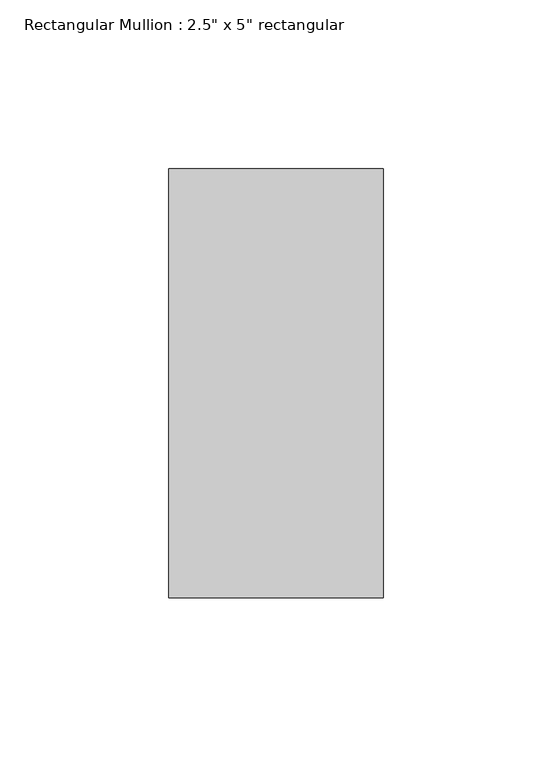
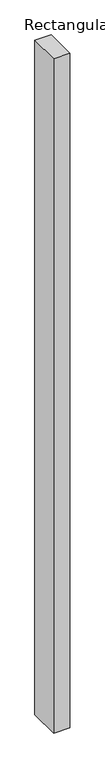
"""IFC4 building model written with IfcOpenShell, lengths in millimetres: member geometry."""

from ifc_helpers import new_model, si_unit, frame, origin, place, context, project, spatial, polyline, outline, extrude, source, transform, mapped, element, save


def member_3b4a0b45(model_context):
    return source(origin(), model_context, "Body", "SweptSolid", [
        extrude(outline(polyline([(31.75, 63.5), (31.75, -63.5), (-31.75, -63.5), (-31.75, 63.5), (31.75, 63.5)])), frame((0.0, 0.0, -2800.35), z_axis=(0.0, 0.0, 1.0), x_axis=(1.0, 0.0, 0.0)), (0.0, 0.0, 1.0), 2800.35),
    ])


if __name__ == "__main__":
    model = new_model("IFC4")
    model_context = context("Model", 3, world=origin())
    ifc_project = project(units=[si_unit("LENGTHUNIT", "METRE", prefix="MILLI")], contexts=[model_context])
    site = spatial("IfcSite", under=ifc_project)
    building = spatial("IfcBuilding", under=site)
    placement = place(None, origin())
    member_shape = member_3b4a0b45(model_context)
    element("IfcMember", 1, ObjectType="Rectangular Mullion : 2.5\" x 5\" rectangular", at=placement, inside=building, context=model_context, shape_type="MappedRepresentation", body=[
        mapped(member_shape, transform((0.0, 0.0, 0.0), x_axis=(1.0, 0.0, 0.0), y_axis=(0.0, 1.0, 0.0), z_axis=(0.0, 0.0, 1.0))),
    ])
    save(model, "model.ifc")
